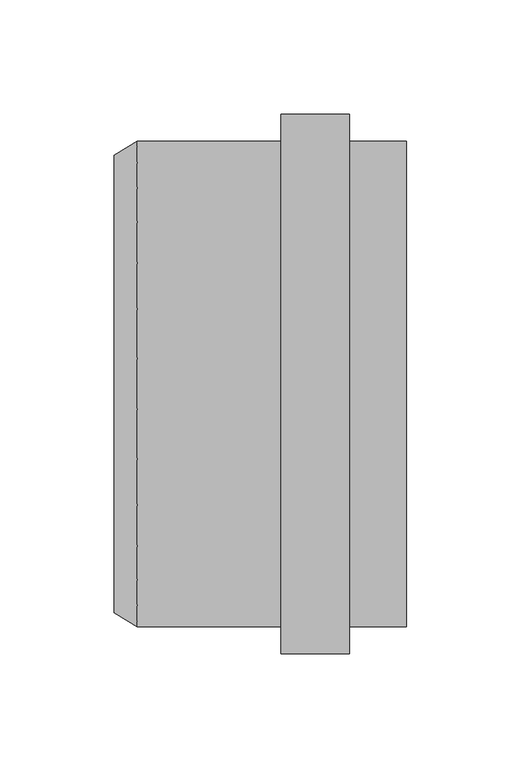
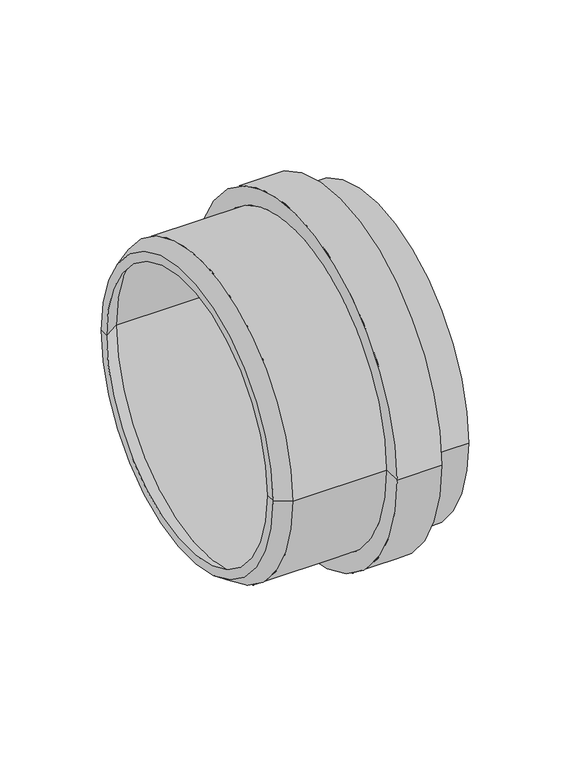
"""IFC4 building model written with IfcOpenShell, lengths in millimetres: pipe fitting geometry, OSMA_KG2000_Hrdlo : Hrdlo."""

from ifc_helpers import new_model, si_unit, frame, origin, place, context, project, spatial, polyline, circle_curve, source, transform, mapped, element, save
from ifc_brep_helpers import plane_surface, cylinder_surface, revolved_surface, advanced_brep


def pipe_fitting_ab212d34(model_context):
    return source(origin(), model_context, "Body", "AdvancedBrep", [
        advanced_brep(
        [(68.0, -118.0, 0.0), (68.0, 118.0, 0.0), (98.0, 118.0, 0.0), (98.0, -118.0, 0.0), (68.0, -106.2, 0.0), (68.0, 106.2, 0.0), (5.0, -106.2, 0.0), (5.0, 106.2, 0.0), (-5.0, -100.0, 0.0), (-5.0, 100.0, 0.0), (-5.0, -93.8, 0.0), (-5.0, 93.8, 0.0), (5.0, -100.0, 0.0), (5.0, 100.0, 0.0), (123.0, -100.0, 0.0), (123.0, 100.0, 0.0), (123.0, -106.2, 0.0), (123.0, 106.2, 0.0), (98.0, -106.2, 0.0), (98.0, 106.2, 0.0)],
        [
            (0, 1, circle_curve(frame((68.0, 0.0, 0.0), z_axis=(1.0, 0.0, 0.0), x_axis=(0.0, 1.0, 0.0)), 118.0)),
            (1, 2),
            (2, 3, circle_curve(frame((98.0, 0.0, 0.0), z_axis=(-1.0, 0.0, 0.0), x_axis=(0.0, 1.0, 0.0)), 118.0)),
            (3, 0),
            (1, 0, circle_curve(frame((68.0, 0.0, 0.0), z_axis=(1.0, 0.0, 0.0), x_axis=(0.0, 1.0, 0.0)), 118.0)),
            (3, 2, circle_curve(frame((98.0, 0.0, 0.0), z_axis=(-1.0, 0.0, 0.0), x_axis=(0.0, 1.0, 0.0)), 118.0)),
            (4, 5, circle_curve(frame((68.0, 0.0, 0.0), z_axis=(1.0, 0.0, 0.0), x_axis=(0.0, 1.0, 0.0)), 106.2)),
            (5, 1),
            (0, 4),
            (5, 4, circle_curve(frame((68.0, 0.0, 0.0), z_axis=(1.0, 0.0, 0.0), x_axis=(0.0, 1.0, 0.0)), 106.2)),
            (6, 7, circle_curve(frame((5.0, 0.0, 0.0), z_axis=(1.0, 0.0, 0.0), x_axis=(0.0, 1.0, 0.0)), 106.2)),
            (7, 5),
            (4, 6),
            (7, 6, circle_curve(frame((5.0, 0.0, 0.0), z_axis=(1.0, 0.0, 0.0), x_axis=(0.0, 1.0, 0.0)), 106.2)),
            (8, 9, circle_curve(frame((-5.0, 0.0, 0.0), z_axis=(1.0, 0.0, 0.0), x_axis=(0.0, 1.0, 0.0)), 100.0)),
            (9, 7),
            (6, 8),
            (9, 8, circle_curve(frame((-5.0, 0.0, 0.0), z_axis=(1.0, 0.0, 0.0), x_axis=(0.0, 1.0, 0.0)), 100.0)),
            (10, 11, circle_curve(frame((-5.0, 0.0, 0.0), z_axis=(1.0, 0.0, 0.0), x_axis=(0.0, 1.0, 0.0)), 93.8)),
            (11, 9),
            (8, 10),
            (11, 10, circle_curve(frame((-5.0, 0.0, 0.0), z_axis=(1.0, 0.0, 0.0), x_axis=(0.0, 1.0, 0.0)), 93.8)),
            (12, 13, circle_curve(frame((5.0, 0.0, 0.0), z_axis=(1.0, 0.0, 0.0), x_axis=(0.0, 1.0, 0.0)), 100.0)),
            (13, 11),
            (10, 12),
            (13, 12, circle_curve(frame((5.0, 0.0, 0.0), z_axis=(1.0, 0.0, 0.0), x_axis=(0.0, 1.0, 0.0)), 100.0)),
            (14, 15, circle_curve(frame((123.0, 0.0, 0.0), z_axis=(1.0, 0.0, 0.0), x_axis=(0.0, 1.0, 0.0)), 100.0)),
            (15, 13),
            (12, 14),
            (15, 14, circle_curve(frame((123.0, 0.0, 0.0), z_axis=(1.0, 0.0, 0.0), x_axis=(0.0, 1.0, 0.0)), 100.0)),
            (16, 17, circle_curve(frame((123.0, 0.0, 0.0), z_axis=(1.0, 0.0, 0.0), x_axis=(0.0, 1.0, 0.0)), 106.2)),
            (17, 15),
            (14, 16),
            (17, 16, circle_curve(frame((123.0, 0.0, 0.0), z_axis=(1.0, 0.0, 0.0), x_axis=(0.0, 1.0, 0.0)), 106.2)),
            (18, 19, circle_curve(frame((98.0, 0.0, 0.0), z_axis=(1.0, 0.0, 0.0), x_axis=(0.0, 1.0, 0.0)), 106.2)),
            (19, 17),
            (16, 18),
            (19, 18, circle_curve(frame((98.0, 0.0, 0.0), z_axis=(1.0, 0.0, 0.0), x_axis=(0.0, 1.0, 0.0)), 106.2)),
            (2, 19),
            (18, 3),
        ],
        [
            cylinder_surface(frame((403.497004, 0.0, 0.0), z_axis=(-1.0, 0.0, 0.0), x_axis=(0.0, 1.0, 0.0)), 118.0),
            plane_surface(frame((68.0, 0.0, 0.0), z_axis=(-1.0, 0.0, 0.0), x_axis=(0.0, 1.0, 0.0))),
            cylinder_surface(frame((403.497004, 0.0, 0.0), z_axis=(-1.0, 0.0, 0.0), x_axis=(0.0, 1.0, 0.0)), 106.2),
            revolved_surface(polyline([(5.0, 106.2, 0.0), (-5.0, 100.0, 0.0)]), (403.497004, 0.0, 0.0), (-1.0, 0.0, 0.0)),
            plane_surface(frame((-5.0, 0.0, 0.0), z_axis=(-1.0, 0.0, 0.0), x_axis=(0.0, 1.0, 0.0))),
            revolved_surface(polyline([(-5.0, 93.8, 0.0), (5.0, 100.0, 0.0)]), (403.497004, 0.0, 0.0), (-1.0, 0.0, 0.0)),
            revolved_surface(polyline([(5.0, 100.0, 0.0), (123.0, 100.0, 0.0)]), (403.497004, 0.0, 0.0), (-1.0, 0.0, 0.0)),
            plane_surface(frame((123.0, 0.0, 0.0), z_axis=(1.0, 0.0, 0.0), x_axis=(0.0, 1.0, 0.0))),
            plane_surface(frame((98.0, 0.0, 0.0), z_axis=(1.0, 0.0, 0.0), x_axis=(0.0, 1.0, 0.0))),
        ],
        [
            (0, [[1, 2, 3, 4]]),
            (0, [[5, -4, 6, -2]]),
            (1, [[7, 8, -1, 9]]),
            (1, [[10, -9, -5, -8]]),
            (2, [[11, 12, -7, 13]]),
            (2, [[14, -13, -10, -12]]),
            (3, [[15, 16, -11, 17]]),
            (3, [[18, -17, -14, -16]]),
            (4, [[19, 20, -15, 21]]),
            (4, [[22, -21, -18, -20]]),
            (5, [[23, 24, -19, 25]]),
            (5, [[26, -25, -22, -24]]),
            (6, [[27, 28, -23, 29]]),
            (6, [[30, -29, -26, -28]]),
            (7, [[31, 32, -27, 33]]),
            (7, [[34, -33, -30, -32]]),
            (2, [[35, 36, -31, 37]]),
            (2, [[38, -37, -34, -36]]),
            (8, [[-3, 39, -35, 40]]),
            (8, [[-6, -40, -38, -39]]),
        ],
    ),
    ])


if __name__ == "__main__":
    model = new_model("IFC4")
    model_context = context("Model", 3, world=origin())
    ifc_project = project(units=[si_unit("LENGTHUNIT", "METRE", prefix="MILLI")], contexts=[model_context])
    site = spatial("IfcSite", under=ifc_project)
    building = spatial("IfcBuilding", under=site)
    placement = place(None, origin())
    pipe_fitting_shape = pipe_fitting_ab212d34(model_context)
    element("IfcPipeFitting", 1, ObjectType="OSMA_KG2000_Hrdlo : Hrdlo", at=placement, inside=building, context=model_context, shape_type="MappedRepresentation", body=[
        mapped(pipe_fitting_shape, transform((0.0, 0.0, 0.0), x_axis=(1.0, 0.0, 0.0), y_axis=(0.0, 1.0, 0.0), z_axis=(0.0, 0.0, 1.0))),
    ])
    save(model, "model.ifc")
